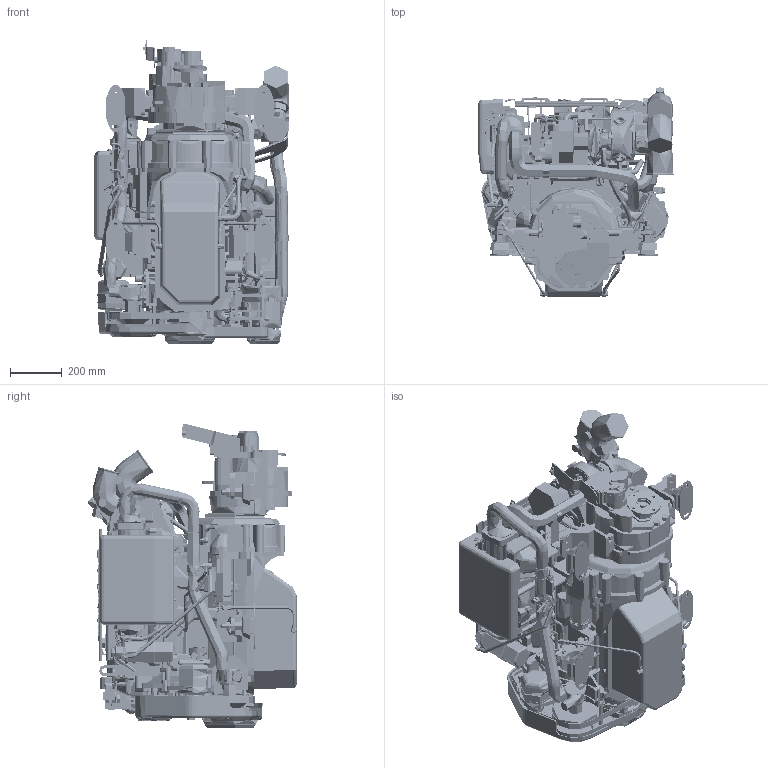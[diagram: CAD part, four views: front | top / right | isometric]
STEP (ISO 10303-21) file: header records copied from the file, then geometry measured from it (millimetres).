
FILE_DESCRIPTION((''),'2;1');
FILE_NAME('00_4LV_FULL_ASM','2020-08-20T',('ib46307'),('YANMAR CO., LTD.'),'PRO/ENGINEER BY PARAMETRIC TECHNOLOGY CORPORATION, 2017170','PRO/ENGINEER BY PARAMETRIC TECHNOLOGY CORPORATION, 2017170','');
FILE_SCHEMA(('CONFIG_CONTROL_DESIGN'));
Products named in the file (86): 4LV150_048; 4LV150_047; 4LV150_041; 4LV150_014; 4LV150_010; 4LV150_009; 4LV150_046; 4LV150_008; 4LV150_034; 4LV150_033; 4LV150_032; 4LV150_031; 4LV150_030; 4LV150_029; 4LV150_028; 4LV150_027; 4LV150_026; 4LV150_024; 4LV150_023; 4LV150_022; 4LV150_020; 4LV150_019; 4LV150_018; 4LV150_017; 4LV150_016; 4LV150_015; 4LV150_013; 4LV150_012; 4LV150_LP; 4LV150_038; 4LV150_042; 4LV150_007; 4LV150_006; 4LV150_005; 4LV150_004; 4LV150_003; 4LV150_002; 4LV150_037; 4LV150_021; 4LV150_036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
Assembly tree (124 placements, depth 4):
  00_4LV_FULL_ASM
    01_4LV195_BASE_ASM
      4LV_195_BASE_ASM
        4LV150_048
        4LV150_047
        4LV150_041
        4LV150_014
        4LV150_010
        4LV150_009
        4LV150_046
        4LV150_008
        4LV150_034
        4LV150_033
        4LV150_032
        4LV150_031
        4LV150_030
        4LV150_029
        4LV150_028
        4LV150_027
        4LV150_026
        4LV150_024
        4LV150_023
        4LV150_022
        4LV150_020
        4LV150_019
        4LV150_018
        4LV150_017
        4LV150_016
        4LV150_015
        4LV150_013
        4LV150_012
        4LV150_LP
        4LV150_038
        4LV150_042
        4LV150_007
        4LV150_006
        4LV150_005
        4LV150_004
        4LV150_003
        4LV150_002
        4LV150_037
        4LV150_021
        4LV150_036
    01_4LV250_BASE_ASM
      4LV_250_BASE_ASM
        4LV150_048
        4LV150_047
        4LV150_041
        4LV150_014
        4LV150_010
        4LV150_009
        4LV150_046
        4LV150_008
        4LV150_034
        4LV150_033
        4LV150_032
        4LV150_031
        4LV150_030
        4LV150_029
        4LV150_028
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Bounding box: 756.98 x 813.1 x 1182.07 mm (x, y, z)
Topology: 97 solids, 409 shells, 25075 faces, 70404 edges, 45565 vertices
Faces by surface type: plane 8941, cylinder 8933, bspline 2605, torus 2591, cone 1512, sphere 326, extrusion 155, revolution 12
Full cylindrical faces by diameter (mm): 39 x2
Entity records: 772039 total; most frequent: CARTESIAN_POINT 315552, ORIENTED_EDGE 97566, DIRECTION 90882, EDGE_CURVE 51385, AXIS2_PLACEMENT_3D 35232, VERTEX_POINT 33438, VECTOR 20412, LINE 20332
